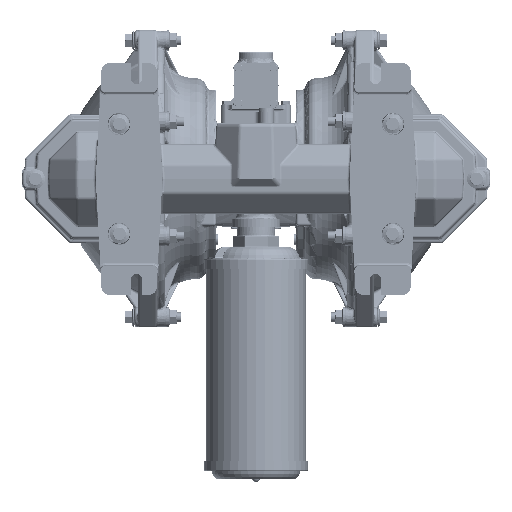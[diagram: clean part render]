
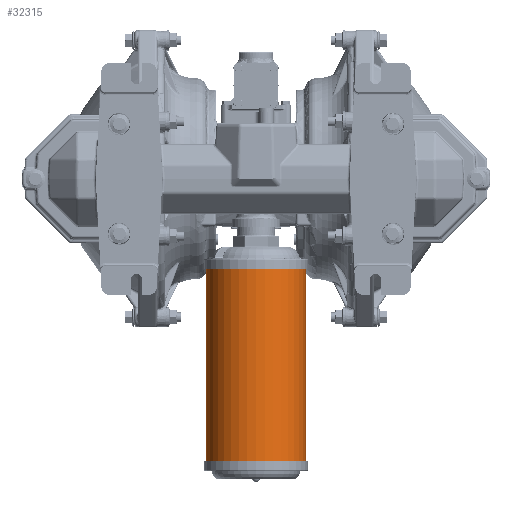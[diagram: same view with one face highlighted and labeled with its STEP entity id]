
A CAD part, front view. The second image highlights one B-rep face of the part: STEP entity #32315.
In plain terms, the highlighted cylindrical face has radius 63.5 mm (diameter 127 mm), a partial arc.
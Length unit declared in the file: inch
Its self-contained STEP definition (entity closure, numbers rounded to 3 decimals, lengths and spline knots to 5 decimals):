
#12607=CYLINDRICAL_SURFACE('',#204750,2.5);
#20733=FACE_OUTER_BOUND('',#86670,.T.);
#32315=ADVANCED_FACE('',(#20733),#12607,.T.);
#45857=CIRCLE('',#204431,2.5);
#45859=CIRCLE('',#204434,2.5);
#45912=CIRCLE('',#204506,2.5);
#45913=CIRCLE('',#204508,2.5);
#45950=CIRCLE('',#204560,2.5);
#45951=CIRCLE('',#204562,2.5);
#57875=LINE('',#439425,#72850);
#57876=LINE('',#439427,#72851);
#72850=VECTOR('',#238763,1.);
#72851=VECTOR('',#238766,1.);
#86670=EDGE_LOOP('',(#126489,#126490,#126491,#126492,#126493,#126494,#126495,
#126496));
#126489=ORIENTED_EDGE('',*,*,#184139,.F.);
#126490=ORIENTED_EDGE('',*,*,#184417,.T.);
#126491=ORIENTED_EDGE('',*,*,#184046,.F.);
#126492=ORIENTED_EDGE('',*,*,#184191,.F.);
#126493=ORIENTED_EDGE('',*,*,#184193,.F.);
#126494=ORIENTED_EDGE('',*,*,#184418,.F.);
#126495=ORIENTED_EDGE('',*,*,#184040,.F.);
#126496=ORIENTED_EDGE('',*,*,#184136,.F.);
#159815=VERTEX_POINT('',#437141);
#159816=VERTEX_POINT('',#437143);
#159818=VERTEX_POINT('',#437181);
#159821=VERTEX_POINT('',#437193);
#159885=VERTEX_POINT('',#437366);
#159887=VERTEX_POINT('',#437405);
#159927=VERTEX_POINT('',#437540);
#159928=VERTEX_POINT('',#437547);
#184040=EDGE_CURVE('',#159815,#159816,#45857,.T.);
#184046=EDGE_CURVE('',#159821,#159818,#45859,.T.);
#184136=EDGE_CURVE('',#159885,#159815,#45912,.T.);
#184139=EDGE_CURVE('',#159887,#159885,#45913,.T.);
#184191=EDGE_CURVE('',#159927,#159821,#45950,.T.);
#184193=EDGE_CURVE('',#159928,#159927,#45951,.T.);
#184417=EDGE_CURVE('',#159887,#159818,#57875,.T.);
#184418=EDGE_CURVE('',#159816,#159928,#57876,.T.);
#204431=AXIS2_PLACEMENT_3D('',#437142,#238012,#238013);
#204434=AXIS2_PLACEMENT_3D('',#437194,#238019,#238020);
#204506=AXIS2_PLACEMENT_3D('',#437367,#238200,#238201);
#204508=AXIS2_PLACEMENT_3D('',#437406,#238204,#238205);
#204560=AXIS2_PLACEMENT_3D('',#437541,#238317,#238318);
#204562=AXIS2_PLACEMENT_3D('',#437548,#238321,#238322);
#204750=AXIS2_PLACEMENT_3D('',#439428,#238767,#238768);
#238012=DIRECTION('',(0.,0.,-1.));
#238013=DIRECTION('',(1.,0.,0.));
#238019=DIRECTION('',(0.,0.,1.));
#238020=DIRECTION('',(-1.,0.,0.));
#238200=DIRECTION('',(0.,0.,-1.));
#238201=DIRECTION('',(1.,0.,0.));
#238204=DIRECTION('',(0.,0.,-1.));
#238205=DIRECTION('',(1.,0.,0.));
#238317=DIRECTION('',(0.,0.,1.));
#238318=DIRECTION('',(-1.,0.,0.));
#238321=DIRECTION('',(0.,0.,1.));
#238322=DIRECTION('',(-1.,0.,0.));
#238763=DIRECTION('',(0.,0.,1.));
#238766=DIRECTION('',(0.,0.,1.));
#238767=DIRECTION('',(0.,0.,1.));
#238768=DIRECTION('',(-1.,0.,0.));
#437141=CARTESIAN_POINT('',(-2.16506,-7.44,-14.50834));
#437142=CARTESIAN_POINT('',(0.,-6.19,-14.50834));
#437143=CARTESIAN_POINT('',(0.14488,-3.6942,-14.50834));
#437181=CARTESIAN_POINT('',(0.19171,-3.69736,-4.29325));
#437193=CARTESIAN_POINT('',(2.16506,-4.94,-4.29325));
#437194=CARTESIAN_POINT('',(0.,-6.19,-4.29325));
#437366=CARTESIAN_POINT('',(2.16506,-4.94,-14.50834));
#437367=CARTESIAN_POINT('',(0.,-6.19,-14.50834));
#437405=CARTESIAN_POINT('',(0.19171,-3.69736,-14.50834));
#437406=CARTESIAN_POINT('',(0.,-6.19,-14.50834));
#437540=CARTESIAN_POINT('',(-2.16506,-7.44,-4.29325));
#437541=CARTESIAN_POINT('',(0.,-6.19,-4.29325));
#437547=CARTESIAN_POINT('',(0.14488,-3.6942,-4.29325));
#437548=CARTESIAN_POINT('',(0.,-6.19,-4.29325));
#439425=CARTESIAN_POINT('',(0.19171,-3.69736,-14.59228));
#439427=CARTESIAN_POINT('',(0.14488,-3.6942,-14.59228));
#439428=CARTESIAN_POINT('',(0.,-6.19,-14.59228));
